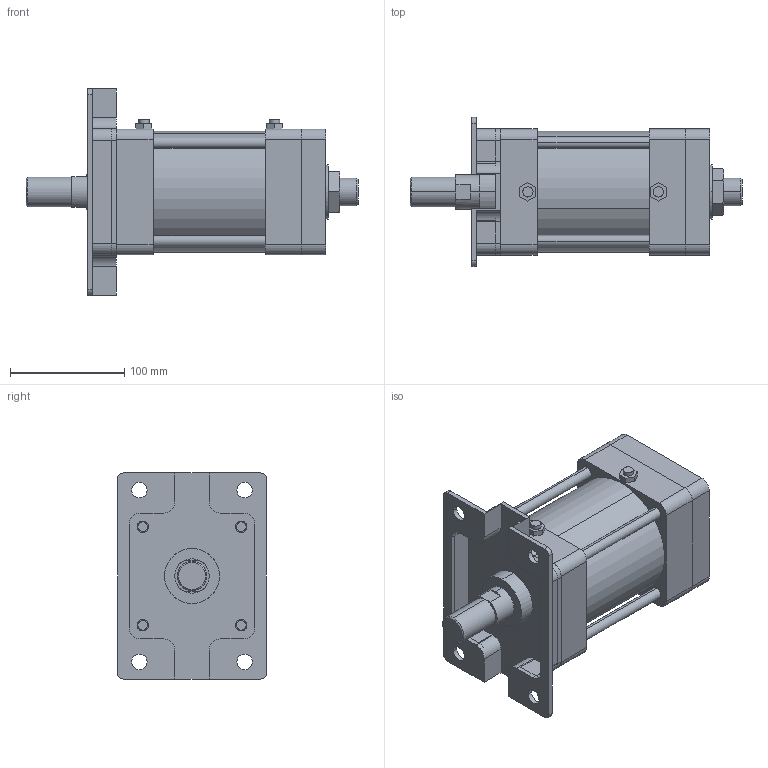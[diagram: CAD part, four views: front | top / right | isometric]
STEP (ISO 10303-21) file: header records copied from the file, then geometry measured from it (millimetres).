
FILE_DESCRIPTION (( 'STEP AP203' ), '1' );
FILE_NAME ('KGA2-100#-50-A.STEP', '2016-04-14T07:45:45', ( '' ), ( '' ), 'SwSTEP 2.0', 'SolidWorks 2014', '' );
FILE_SCHEMA (( 'CONFIG_CONTROL_DESIGN' ));
Length unit declared in the file: millimetre
Products named in the file (8): KGA2-100-After; KG2-100-After; KGA2-100#-50-A; KGLH2-100-50; K-100-AB
Assembly tree (17 placements, depth 2):
  KGA2-100#-50-A
    KG2-100-After
    KGLH2-100-50
    (unnamed)
    (unnamed)  x4
    (unnamed)  x8
    K-100-AB
    KGA2-100-After
Bounding box: 290 x 130 x 180 mm (x, y, z)
Volume: 1849719.9 mm3; surface area: 309596.6 mm2
Topology: 17 solids, 17 shells, 412 faces, 1009 edges, 650 vertices
Faces by surface type: plane 177, cylinder 169, torus 38, cone 28
Entity records: 11160 total; most frequent: CARTESIAN_POINT 1921, DIRECTION 1785, ORIENTED_EDGE 1638, EDGE_CURVE 819, AXIS2_PLACEMENT_3D 658, VERTEX_POINT 540, VECTOR 469, LINE 469
